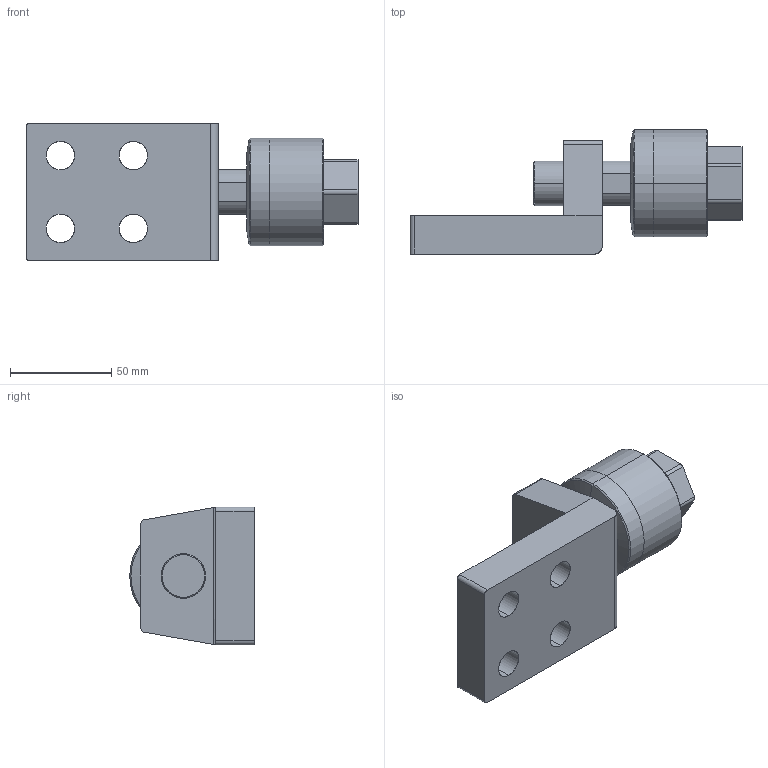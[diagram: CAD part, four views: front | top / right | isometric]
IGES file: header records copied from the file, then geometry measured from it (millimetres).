
Start section: SolidWorks IGES file using analytic representation for surfaces
Global section: file name: C:\Users\Toshiba\Desktop\FCM22A-1.5-L.IGS; native system: SolidWorks 2014; preprocessor: SolidWorks 2014; author: Toshiba; date: 160414.095946; units: millimetre
Bounding box: 164 x 61.5 x 68 mm (x, y, z)
Surface area: 44216.8 mm2 (no closed solid volume)
Topology: 0 solids, 0 shells, 72 faces, 1016 edges, 1014 vertices
Faces by surface type: revolution 44, bspline 28
